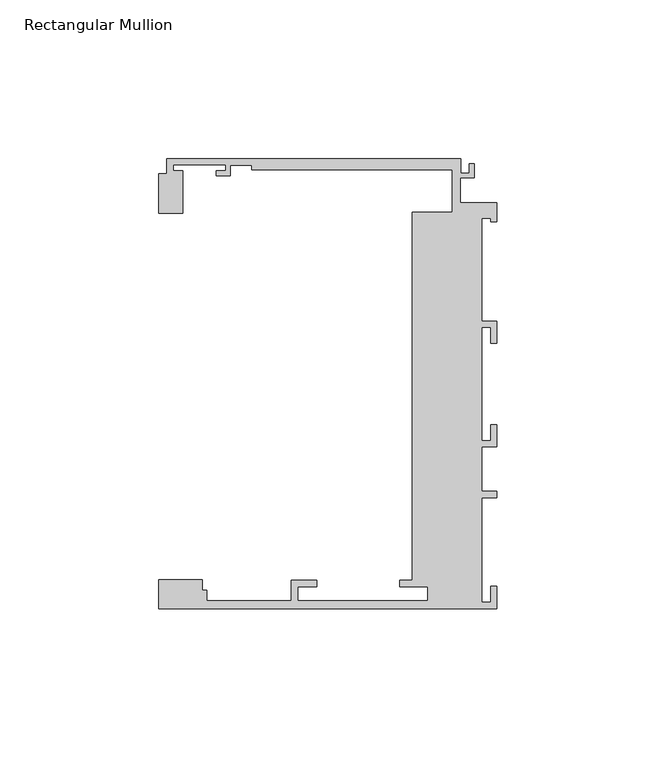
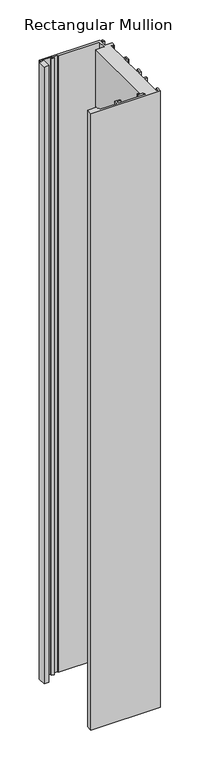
"""IFC4 building model written with IfcOpenShell, lengths in millimetres: member geometry, Rectangular Mullion : Danpal_K12_End-Mullion_B1."""

from ifc_helpers import new_model, si_unit, frame, origin, place, context, project, spatial, polyline, outline, extrude, source, transform, mapped, element, save


def rectangular_mullion_8b3feda1(model_context):
    return source(origin(), model_context, "Body", "SweptSolid", [
        extrude(outline(polyline([(-26.6209612, -117.8676658), (-26.6209612, -1.9446289), (-14.1055875, -1.9446289), (-14.1055875, 11.3051512), (-77.1531178, 11.3051512), (-77.1531178, 12.8051513), (-83.8999976, 12.8051513), (-83.8999976, 9.5051512), (-88.3999976, 9.5051512), (-88.3999976, 11.0051513), (-85.3999976, 11.0051513), (-85.3999976, 13.0051512), (-101.8999976, 13.0051512), (-101.8999976, 11.0051513), (-98.8999976, 11.0051513), (-98.8999976, -2.316674), (-106.4117426, -2.316674), (-106.4117426, 10.065304), (-103.8999976, 10.065304), (-103.8999976, 14.8051514), (-11.4019537, 14.8051514), (-11.4019537, 10.3006425), (-8.6518595, 10.3006425), (-8.6518595, 13.3051514), (-7.1518595, 13.3051514), (-7.1518595, 8.8006425), (-11.6055875, 8.8006425), (-11.6055875, 1.0551514), (0.0, 1.0551514), (0.0, -4.9448486), (-2.0, -4.9448486), (-2.0, -3.9448486), (-4.8, -3.9448486), (-4.8, -36.2443486), (0.0, -36.2443486), (0.0, -43.2443486), (-2.0, -43.2443486), (-2.0, -38.2443486), (-4.8, -38.2443486), (-4.8, -73.8676657), (-2.0, -73.8676657), (-2.0, -68.8676657), (0.0, -68.8676657), (0.0, -75.867683), (-4.8, -75.867683), (-4.8, -89.8676485), (0.0, -89.8676485), (0.0, -91.8676485), (-4.8, -91.8676485), (-4.8, -124.7676657), (-2.0, -124.7676657), (-2.0, -119.7676657), (0.0, -119.7676657), (0.0, -126.7676657), (-106.4117426, -126.7676657), (-106.4117426, -117.6986749), (-92.8228167, -117.6986749), (-92.8228167, -121.0676175), (-91.2900275, -121.0676175), (-91.2900275, -124.2676658), (-64.7350275, -124.2676658), (-64.7350275, -117.8676658), (-56.7350275, -117.8676658), (-56.7350275, -119.8676658), (-62.7350275, -119.8676658), (-62.7350275, -124.2676658), (-21.835, -124.2676658), (-21.835, -119.8676658), (-30.6, -119.8676658), (-30.6, -117.8676658), (-26.6209612, -117.8676658)])), frame((0.0, 0.0, -1000.0), z_axis=(0.0, 0.0, 1.0), x_axis=(1.0, 0.0, 0.0)), (0.0, 0.0, 1.0), 1000.0),
    ])


if __name__ == "__main__":
    model = new_model("IFC4")
    model_context = context("Model", 3, world=origin())
    ifc_project = project(units=[si_unit("LENGTHUNIT", "METRE", prefix="MILLI")], contexts=[model_context])
    site = spatial("IfcSite", under=ifc_project)
    building = spatial("IfcBuilding", under=site)
    placement = place(None, origin())
    rectangular_mullion_shape = rectangular_mullion_8b3feda1(model_context)
    element("IfcMember", 1, ObjectType="Rectangular Mullion : Danpal_K12_End-Mullion_B1", at=placement, inside=building, context=model_context, shape_type="MappedRepresentation", body=[
        mapped(rectangular_mullion_shape, transform((0.0, 0.0, 0.0), x_axis=(1.0, 0.0, 0.0), y_axis=(0.0, 1.0, 0.0), z_axis=(0.0, 0.0, 1.0))),
    ])
    save(model, "model.ifc")
